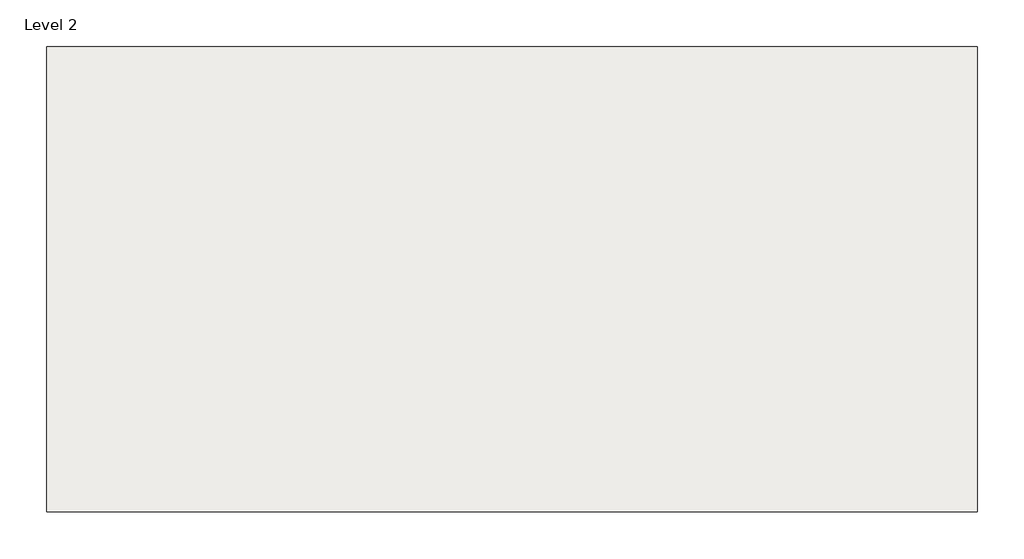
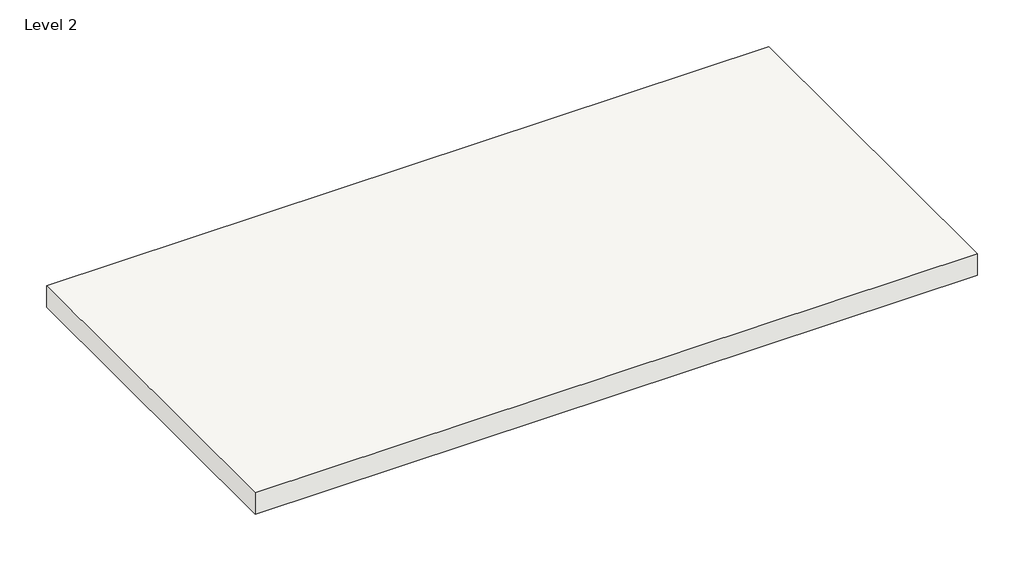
# One storey: 1 slab.
"""IFC4 building model written with IfcOpenShell, lengths in millimetres."""

from ifc_helpers import new_model, si_unit, frame, origin, place, context, project, spatial, polyline, outline, extrude, element, save

model = new_model("IFC4")

# Units and contexts
model_context = context("Model", 3, world=origin())
ifc_project = project(units=[si_unit("LENGTHUNIT", "METRE", prefix="MILLI")], contexts=[model_context])

# Site, building, storey
site = spatial("IfcSite", under=ifc_project)
building = spatial("IfcBuilding", under=site)
storey = spatial("IfcBuildingStorey", under=building, Name="Level 2", Elevation=3048.0)

# Slab
placement = place(None, origin())
element("IfcSlab", 1, ObjectType="Toris 2.5\" Deep Non_Acoustic Roof Deck w Rigid Insulation", at=placement, inside=storey, context=model_context, shape_type="SweptSolid", body=[
    extrude(outline(polyline([(-8968.1893377, 12303.0956878), (-8968.1893377, 10474.2956878), (-12625.7893377, 10474.2956878), (-12625.7893377, 12303.0956878), (-8968.1893377, 12303.0956878)])), frame((0.0, 0.0, 2933.7), z_axis=(0.0, 0.0, 1.0), x_axis=(1.0, 0.0, 0.0)), (0.0, 0.0, 1.0), 114.3),
])

save(model, "model.ifc")
